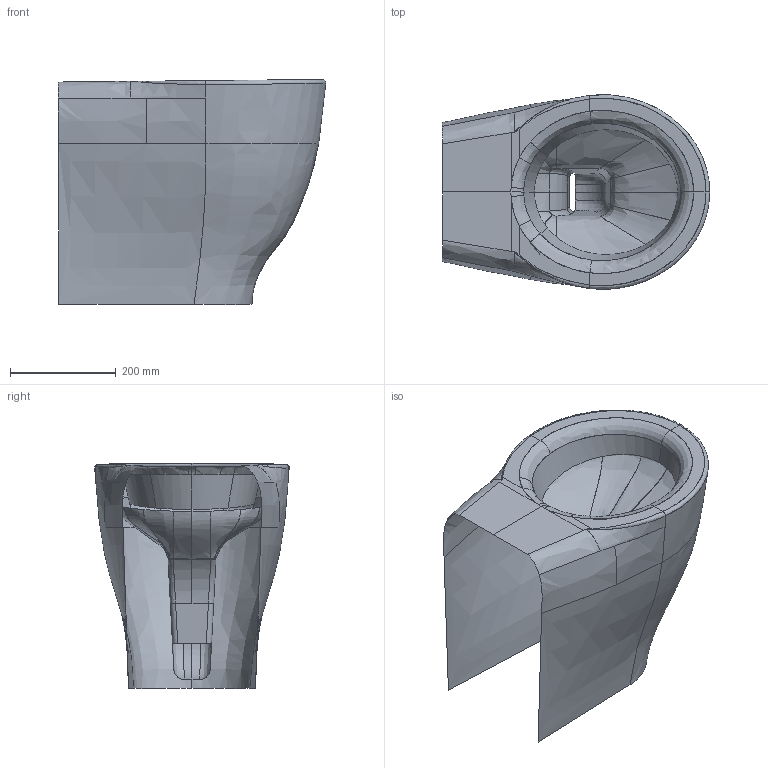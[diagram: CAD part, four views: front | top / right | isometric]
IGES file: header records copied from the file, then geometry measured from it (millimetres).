
Start section: START RECORD GO HERE.
Global section: file name: Vaso terra.igs; native system: IBM CATIA IGES - CATIA Version 5 Release 17 ; preprocessor: CATIA Version 5 Release 17 ; author: Luca; organization: PC-Luca; date: 20121108.154236; units: millimetre
Bounding box: 505.69 x 368.06 x 425.61 mm (x, y, z)
Surface area: 770709.6 mm2 (no closed solid volume)
Topology: 0 solids, 0 shells, 94 faces, 655 edges, 641 vertices
Faces by surface type: bspline 94
